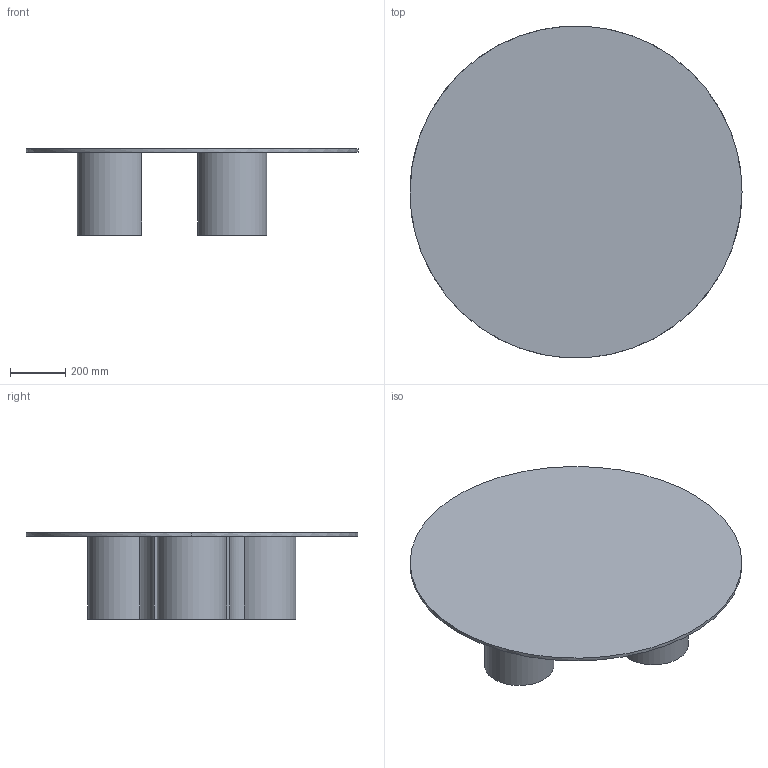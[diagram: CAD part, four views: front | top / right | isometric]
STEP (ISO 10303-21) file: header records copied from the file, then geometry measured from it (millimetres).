
FILE_DESCRIPTION(/* description */ (''),/* implementation_level */ '2;1');
FILE_NAME(/* name */ '0648 - Luxor diam. 120 H30',/* time_stamp */ '2012-06-20T15:25:17+02:00',/* author */ (''),/* organization */ (''),/* preprocessor_version */ 'ST-DEVELOPER v10',/* originating_system */ '',/* authorisation */ '');
FILE_SCHEMA (('CONFIG_CONTROL_DESIGN'));
Length unit declared in the file: millimetre
Products named in the file (1): 1
Bounding box: 1200 x 1198.31 x 312 mm (x, y, z)
Volume: 19229637.9 mm3; surface area: 3492847.5 mm2
Topology: 4 solids, 4 shells, 25 faces, 51 edges, 34 vertices
Faces by surface type: plane 17, bspline 8
Entity records: 849 total; most frequent: CARTESIAN_POINT 403, ORIENTED_EDGE 102, EDGE_CURVE 51, B_SPLINE_CURVE_WITH_KNOTS 35, VERTEX_POINT 34, ADVANCED_FACE 25, FACE_OUTER_BOUND 25, EDGE_LOOP 25
